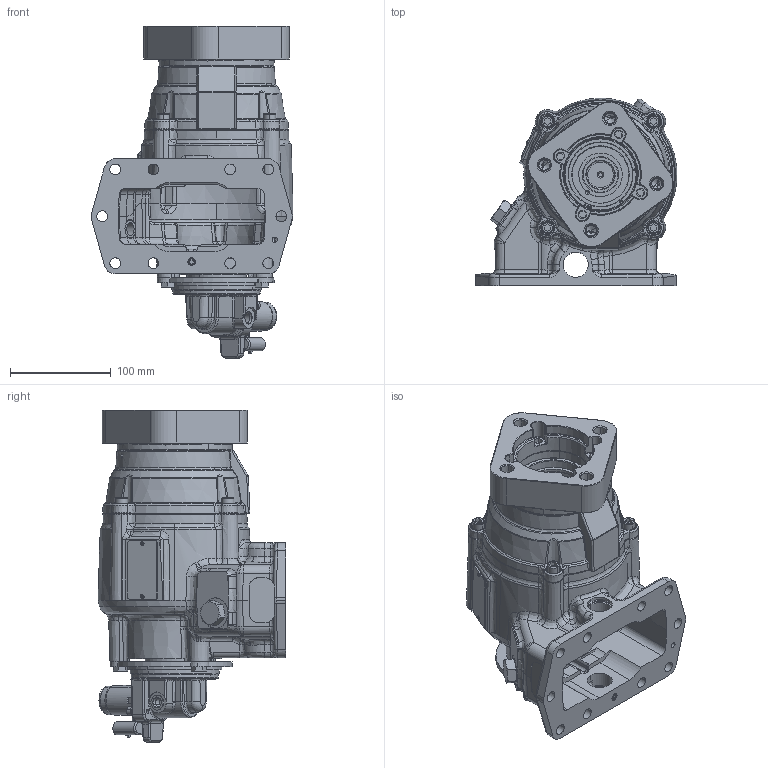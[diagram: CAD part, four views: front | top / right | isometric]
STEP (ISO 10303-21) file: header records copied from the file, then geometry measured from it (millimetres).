
FILE_DESCRIPTION (( 'STEP AP203' ), '1' );
FILE_NAME ('A20-A10XX-HX1IIPX.STEP', '2023-03-23T13:02:47', ( '' ), ( '' ), 'SwSTEP 2.0', 'SolidWorks 2021', '' );
FILE_SCHEMA (( 'CONFIG_CONTROL_DESIGN' ));
Length unit declared in the file: inch
Products named in the file (13): 19T36588_19T36588; SC-301_25T37702; 47T6123TMP_Solenoid; A20-A10XX-HX1IIPX; 14T65918_DIN_Flange.step; DropInSolenoidRearCoverAssembly; 35T40860; 12T36701; 15T43431_FOR CLAMPS; 19T62950; 01T43462_1Arrangement; 47T6123_15T43431_DUST CAP INSTALLED; 15T65391DB3
Assembly tree (20 placements, depth 4):
  A20-A10XX-HX1IIPX
    01T43462_1Arrangement
    15T65391DB3
    19T36588_19T36588  x8
    DropInSolenoidRearCoverAssembly
      47T6123TMP_Solenoid
      47T6123_15T43431_DUST CAP INSTALLED
        15T43431_FOR CLAMPS
        19T62950  x2
        12T36701
        SC-301_25T37702
    14T65918_DIN_Flange.step
    35T40860
Bounding box: 200.33 x 186.36 x 329.64 mm (x, y, z)
Volume: 886475.4 mm3; surface area: 462833.4 mm2
Topology: 24 solids, 37 shells, 3371 faces, 8313 edges, 5029 vertices
Faces by surface type: plane 994, bspline 888, cylinder 792, cone 392, torus 259, sphere 46
Entity records: 157860 total; most frequent: CARTESIAN_POINT 86731, ORIENTED_EDGE 15564, DIRECTION 13076, EDGE_CURVE 7791, AXIS2_PLACEMENT_3D 5166, VERTEX_POINT 4797, EDGE_LOOP 3475, ADVANCED_FACE 3203
